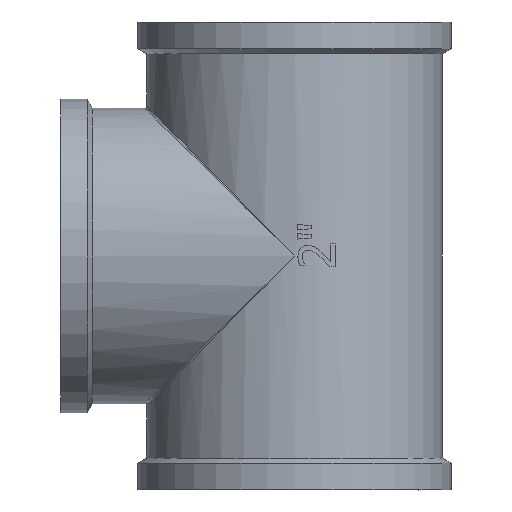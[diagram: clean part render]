
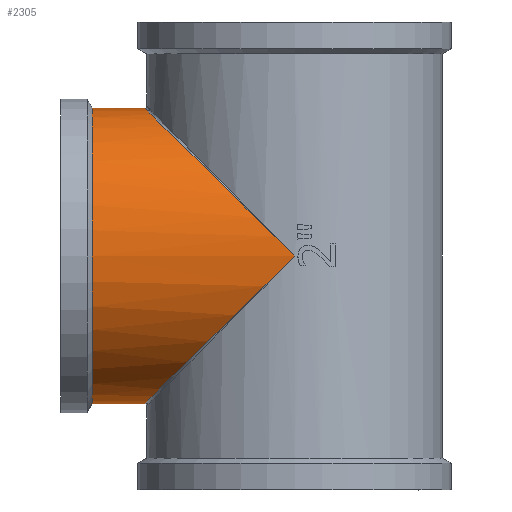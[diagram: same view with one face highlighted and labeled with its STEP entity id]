
A CAD part, left-side view. The second image highlights one B-rep face of the part: STEP entity #2305.
In plain terms, the highlighted cylindrical face has radius 32.5 mm (diameter 65 mm), a full revolution.
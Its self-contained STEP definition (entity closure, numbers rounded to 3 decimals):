
#223=CIRCLE('',#2474,32.5);
#224=CIRCLE('',#2475,32.5);
#225=CIRCLE('',#2476,32.5);
#352=FACE_OUTER_BOUND('',#486,.T.);
#486=EDGE_LOOP('',(#1677,#1678,#1679,#1680,#1681,#1682,#1683,#1684));
#608=ELLIPSE('',#2459,46.317,32.5);
#613=ELLIPSE('',#2464,46.317,32.5);
#614=ELLIPSE('',#2465,46.317,32.5);
#661=LINE('',#3814,#800);
#800=VECTOR('',#2744,32.5);
#947=VERTEX_POINT('',#3706);
#949=VERTEX_POINT('',#3715);
#955=VERTEX_POINT('',#3787);
#956=VERTEX_POINT('',#3789);
#963=VERTEX_POINT('',#3813);
#964=VERTEX_POINT('',#3815);
#1217=EDGE_CURVE('',#947,#949,#608,.T.);
#1224=EDGE_CURVE('',#949,#955,#613,.T.);
#1225=EDGE_CURVE('',#955,#956,#614,.T.);
#1236=EDGE_CURVE('',#956,#947,#223,.T.);
#1237=EDGE_CURVE('',#955,#963,#661,.T.);
#1238=EDGE_CURVE('',#963,#964,#224,.T.);
#1239=EDGE_CURVE('',#964,#963,#225,.T.);
#1677=ORIENTED_EDGE('',*,*,#1224,.F.);
#1678=ORIENTED_EDGE('',*,*,#1217,.F.);
#1679=ORIENTED_EDGE('',*,*,#1236,.F.);
#1680=ORIENTED_EDGE('',*,*,#1225,.F.);
#1681=ORIENTED_EDGE('',*,*,#1237,.T.);
#1682=ORIENTED_EDGE('',*,*,#1238,.T.);
#1683=ORIENTED_EDGE('',*,*,#1239,.T.);
#1684=ORIENTED_EDGE('',*,*,#1237,.F.);
#2225=CYLINDRICAL_SURFACE('',#2473,32.5);
#2305=ADVANCED_FACE('',(#352),#2225,.T.);
#2459=AXIS2_PLACEMENT_3D('',#3716,#2709,#2710);
#2464=AXIS2_PLACEMENT_3D('',#3788,#2719,#2720);
#2465=AXIS2_PLACEMENT_3D('',#3790,#2721,#2722);
#2473=AXIS2_PLACEMENT_3D('',#3811,#2740,#2741);
#2474=AXIS2_PLACEMENT_3D('',#3812,#2742,#2743);
#2475=AXIS2_PLACEMENT_3D('',#3816,#2745,#2746);
#2476=AXIS2_PLACEMENT_3D('',#3817,#2747,#2748);
#2709=DIRECTION('center_axis',(0.,-0.702,0.712));
#2710=DIRECTION('ref_axis',(0.,0.712,0.702));
#2719=DIRECTION('center_axis',(0.,-0.702,-0.712));
#2720=DIRECTION('ref_axis',(0.,0.712,-0.702));
#2721=DIRECTION('center_axis',(0.,-0.702,-0.712));
#2722=DIRECTION('ref_axis',(0.,0.712,-0.702));
#2740=DIRECTION('center_axis',(0.,-1.,0.));
#2741=DIRECTION('ref_axis',(0.,0.,1.));
#2742=DIRECTION('center_axis',(0.,-1.,0.));
#2743=DIRECTION('ref_axis',(0.,0.,1.));
#2744=DIRECTION('',(0.,1.,0.));
#2745=DIRECTION('center_axis',(0.,-1.,0.));
#2746=DIRECTION('ref_axis',(1.,0.,0.));
#2747=DIRECTION('center_axis',(0.,-1.,0.));
#2748=DIRECTION('ref_axis',(1.,0.,0.));
#3706=CARTESIAN_POINT('',(31.337,8.75,8.617));
#3715=CARTESIAN_POINT('',(-32.5,0.,0.));
#3716=CARTESIAN_POINT('Origin',(0.,0.,0.));
#3787=CARTESIAN_POINT('',(0.,33.,-32.5));
#3788=CARTESIAN_POINT('Origin',(0.,0.,0.));
#3789=CARTESIAN_POINT('',(31.337,8.75,-8.617));
#3790=CARTESIAN_POINT('Origin',(0.,0.,0.));
#3811=CARTESIAN_POINT('Origin',(0.,22.25,0.));
#3812=CARTESIAN_POINT('Origin',(0.,8.75,0.));
#3813=CARTESIAN_POINT('',(0.,44.5,-32.5));
#3814=CARTESIAN_POINT('',(0.,22.25,-32.5));
#3815=CARTESIAN_POINT('',(0.,44.5,32.5));
#3816=CARTESIAN_POINT('Origin',(0.,44.5,0.));
#3817=CARTESIAN_POINT('Origin',(0.,44.5,0.));
